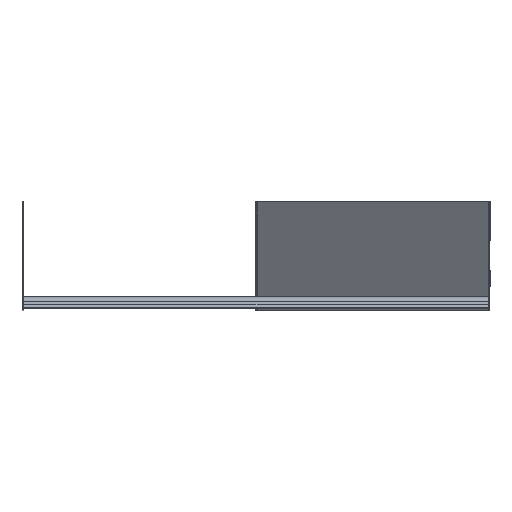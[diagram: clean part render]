
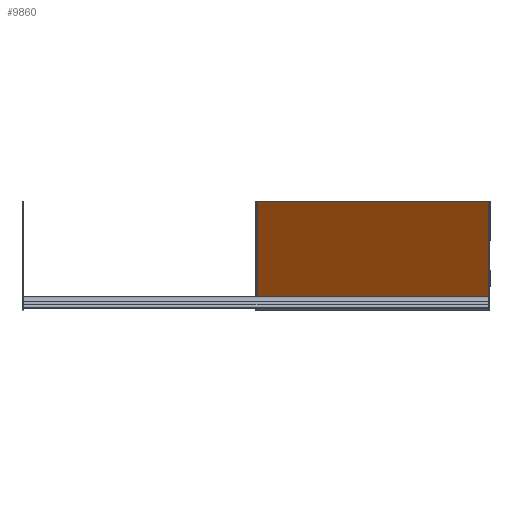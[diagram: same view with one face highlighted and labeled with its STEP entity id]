
A CAD part, top view. The second image highlights one B-rep face of the part: STEP entity #9860.
In plain terms, the highlighted planar face has unit normal (-0.682, 0, 0.731).
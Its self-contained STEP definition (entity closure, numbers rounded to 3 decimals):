
#29 = VERTEX_POINT ( 'NONE', #7926 ) ;
#135 = VECTOR ( 'NONE', #1819, 1000. ) ;
#244 = LINE ( 'NONE', #8278, #135 ) ;
#748 = ORIENTED_EDGE ( 'NONE', *, *, #1743, .F. ) ;
#960 = LINE ( 'NONE', #3455, #6442 ) ;
#1130 = CARTESIAN_POINT ( 'NONE',  ( 449.523, 140., -0.445 ) ) ;
#1185 = DIRECTION ( 'NONE',  ( 0., 1., 0. ) ) ;
#1743 = EDGE_CURVE ( 'NONE', #8239, #29, #960, .T. ) ;
#1819 = DIRECTION ( 'NONE',  ( 0., 1., 0. ) ) ;
#2041 = CARTESIAN_POINT ( 'NONE',  ( 450., 140., 0. ) ) ;
#2105 = ORIENTED_EDGE ( 'NONE', *, *, #8707, .T. ) ;
#2831 = DIRECTION ( 'NONE',  ( -0.731, 0., -0.682 ) ) ;
#3095 = DIRECTION ( 'NONE',  ( -0.682, 0., 0.731 ) ) ;
#3455 = CARTESIAN_POINT ( 'NONE',  ( 151.112, 0., -278.962 ) ) ;
#3496 = LINE ( 'NONE', #2041, #10352 ) ;
#3856 = CARTESIAN_POINT ( 'NONE',  ( 450., 140., 0. ) ) ;
#4302 = EDGE_CURVE ( 'NONE', #10175, #8239, #7004, .T. ) ;
#4477 = DIRECTION ( 'NONE',  ( -0.731, 0., -0.682 ) ) ;
#4668 = FACE_OUTER_BOUND ( 'NONE', #8168, .T. ) ;
#6323 = VECTOR ( 'NONE', #2831, 1000. ) ;
#6442 = VECTOR ( 'NONE', #1185, 1000. ) ;
#7004 = LINE ( 'NONE', #10269, #6323 ) ;
#7165 = DIRECTION ( 'NONE',  ( 0.731, 0., 0.682 ) ) ;
#7215 = CARTESIAN_POINT ( 'NONE',  ( 449.523, 0., -0.445 ) ) ;
#7434 = AXIS2_PLACEMENT_3D ( 'NONE', #3856, #3095, #7165 ) ;
#7915 = EDGE_CURVE ( 'NONE', #10439, #29, #3496, .T. ) ;
#7926 = CARTESIAN_POINT ( 'NONE',  ( 151.112, 140., -278.962 ) ) ;
#7988 = PLANE ( 'NONE',  #7434 ) ;
#8168 = EDGE_LOOP ( 'NONE', ( #748, #10456, #2105, #9738 ) ) ;
#8239 = VERTEX_POINT ( 'NONE', #9620 ) ;
#8278 = CARTESIAN_POINT ( 'NONE',  ( 449.523, 0., -0.445 ) ) ;
#8707 = EDGE_CURVE ( 'NONE', #10175, #10439, #244, .T. ) ;
#9620 = CARTESIAN_POINT ( 'NONE',  ( 151.112, 0., -278.962 ) ) ;
#9738 = ORIENTED_EDGE ( 'NONE', *, *, #7915, .T. ) ;
#9860 = ADVANCED_FACE ( 'NONE', ( #4668 ), #7988, .T. ) ;
#10175 = VERTEX_POINT ( 'NONE', #7215 ) ;
#10269 = CARTESIAN_POINT ( 'NONE',  ( 450., 0., 0. ) ) ;
#10352 = VECTOR ( 'NONE', #4477, 1000. ) ;
#10439 = VERTEX_POINT ( 'NONE', #1130 ) ;
#10456 = ORIENTED_EDGE ( 'NONE', *, *, #4302, .F. ) ;
